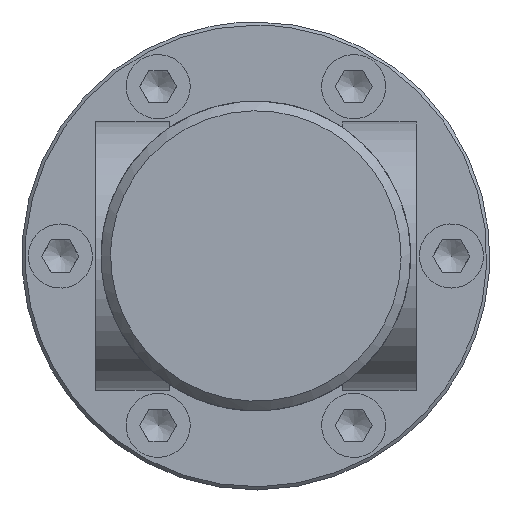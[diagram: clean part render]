
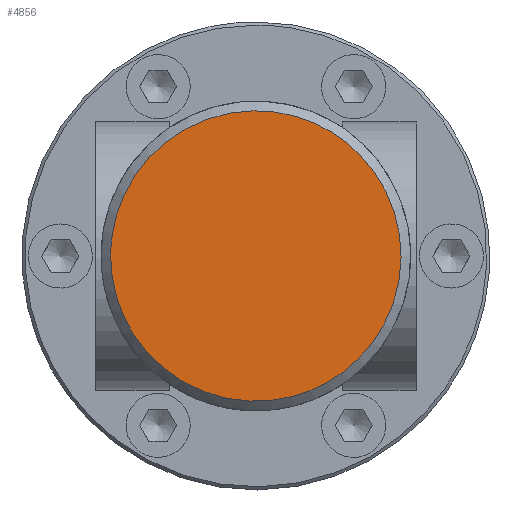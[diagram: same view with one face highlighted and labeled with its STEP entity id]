
A CAD part, left-side view. The second image highlights one B-rep face of the part: STEP entity #4856.
In plain terms, the highlighted free-form (B-spline) face has degree [1, 1] with [2, 2] control points.
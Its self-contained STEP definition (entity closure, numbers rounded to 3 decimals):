
#4801=CARTESIAN_POINT('V5',(-1.005,79.967,
   0.0));
#4802=VERTEX_POINT('V5',#4801);
#4810=CARTESIAN_POINT('E13',(-1.005,79.967,
   0.));
#4811=CARTESIAN_POINT('E13',(-1.005,79.967,
   39.231));
#4812=CARTESIAN_POINT('E13',(-1.005,45.992,
   19.615));
#4813=CARTESIAN_POINT('E13',(-1.005,12.017,
   0.));
#4814=CARTESIAN_POINT('E13',(-1.005,45.992,
   -19.615));
#4815=CARTESIAN_POINT('E13',(-1.005,79.967,
   -39.231));
#4816=CARTESIAN_POINT('E13',(-1.005,79.967,
   0.));
#4824=(BOUNDED_CURVE()B_SPLINE_CURVE(2,(#4810,#4811,#4812,#4813,
   #4814,#4815,#4816),.CIRCULAR_ARC.,.T.,.U.)
   B_SPLINE_CURVE_WITH_KNOTS((3,2,2,3),(2.0,24.363,
   46.725,69.088),.UNSPECIFIED.)CURVE()
   GEOMETRIC_REPRESENTATION_ITEM()RATIONAL_B_SPLINE_CURVE((1.0,
   0.5,1.0,0.5,1.0,0.5,1.0)
   )REPRESENTATION_ITEM('E13'));
#4825=EDGE_CURVE('E13',#4802,#4802,#4824,.T.);
#4848=CARTESIAN_POINT('F1',(-1.005,83.882,
   -26.565));
#4849=CARTESIAN_POINT('F1',(-1.005,83.882,
   26.565));
#4850=CARTESIAN_POINT('F1',(-1.005,30.752,
   -26.565));
#4851=CARTESIAN_POINT('F1',(-1.005,30.752,
   26.565));
#4852=QUASI_UNIFORM_SURFACE('F1',1,1,((#4848,#4850),(#4849,#4851)),
   .PLANE_SURF.,.F.,.F.,.U.);
#4853=ORIENTED_EDGE('E13',*,*,#4825,.F.);
#4854=EDGE_LOOP('F1',(#4853));
#4855=FACE_OUTER_BOUND('F1',#4854,.F.);
#4856=ADVANCED_FACE('F1',(#4855),#4852,.T.);
